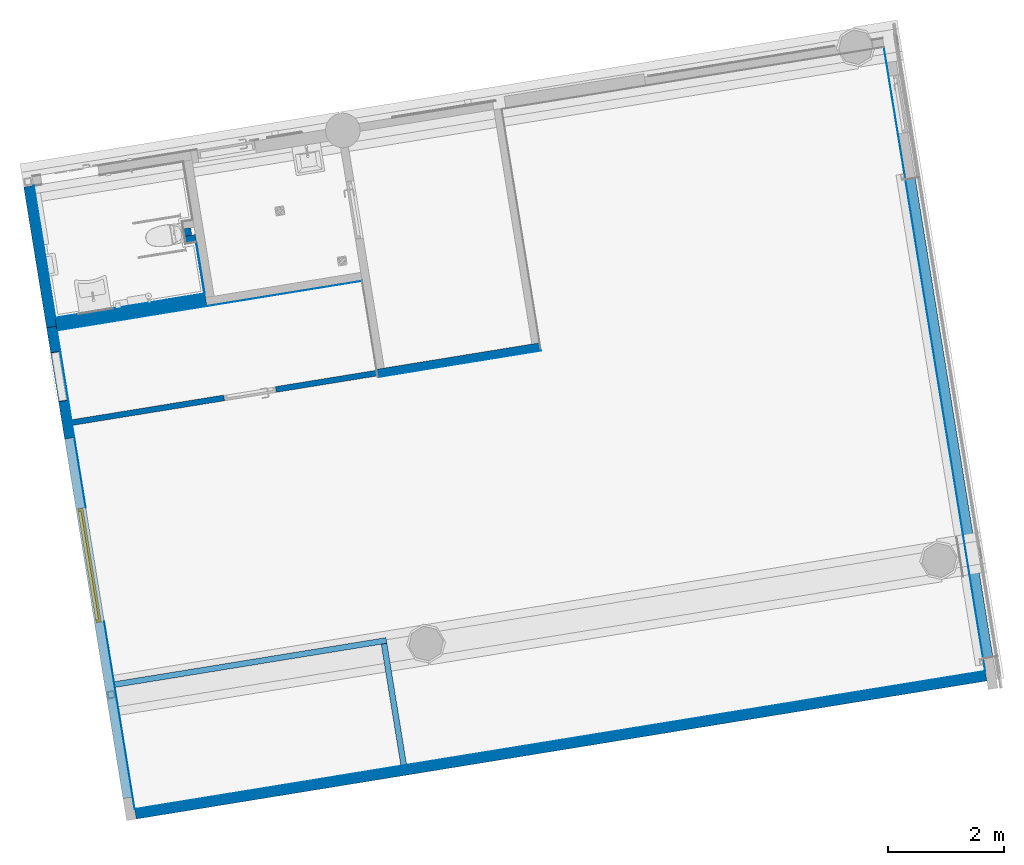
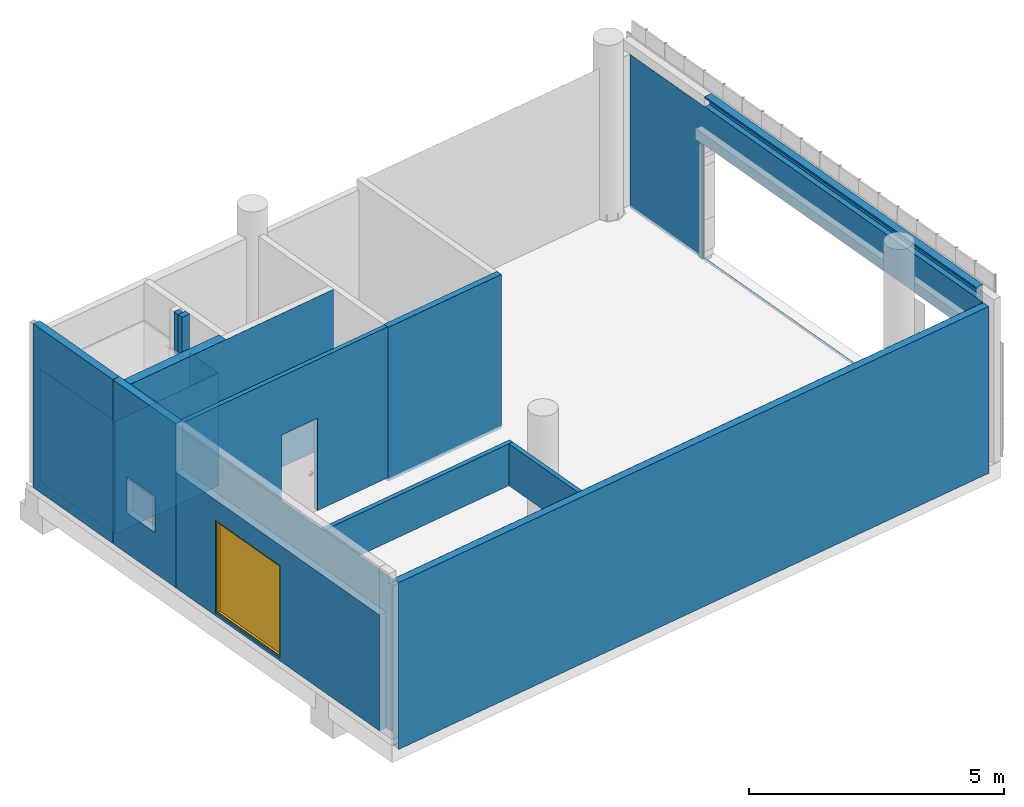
# One storey, part 15 of 38: 20 walls, 1 door, 6 openings.
"""IFC2X3 building model written with IfcOpenShell, lengths in millimetres."""

from ifc_helpers import new_model, entity, si_unit, converted_unit, derived_unit, direction, frame, frame_2d, origin, origin_with_axes, origin_2d_with_axis, place, context, subcontext, project, spatial, polyline, rectangle, outline, extrude, clip, bounded_halfspace, source, transform, mapped, material, layer, layer_set, layer_usage, type_object, element, fill, save


model = new_model("IFC2X3")

# Units and contexts
model_context = context("Model", 3, precision=0.01, world=origin(), true_north=direction((6.12323399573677e-17, 1.0)))
plan_context = context("Plan", 3, precision=1e-05, world=origin_with_axes())
body_context = subcontext(model_context, "Body", "Model", "MODEL_VIEW")
ifc_project = project(units=[converted_unit("PLANEANGLEUNIT", "DEGREE", entity("IfcPositiveLengthMeasure", 0.0174532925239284), si_unit("PLANEANGLEUNIT", "RADIAN"), dimensions=[0, 0, 0, 0, 0, 0, 0]), si_unit("AREAUNIT", "SQUARE_METRE"), si_unit("LENGTHUNIT", "METRE", prefix="MILLI"), si_unit("MASSUNIT", "GRAM", prefix="KILO"), si_unit("POWERUNIT", "WATT"), si_unit("PRESSUREUNIT", "PASCAL", prefix="KILO"), si_unit("FORCEUNIT", "NEWTON", prefix="KILO"), si_unit("ELECTRICVOLTAGEUNIT", "VOLT"), si_unit("ELECTRICCURRENTUNIT", "AMPERE"), si_unit("THERMODYNAMICTEMPERATUREUNIT", "DEGREE_CELSIUS"), si_unit("TIMEUNIT", "SECOND"), si_unit("VOLUMEUNIT", "CUBIC_METRE"), derived_unit("LINEARVELOCITYUNIT", [(si_unit("LENGTHUNIT", "METRE"), 1), (si_unit("TIMEUNIT", "SECOND"), -1)]), derived_unit("VOLUMETRICFLOWRATEUNIT", [(si_unit("VOLUMEUNIT", "CUBIC_METRE"), 1), (si_unit("TIMEUNIT", "SECOND"), -1)]), derived_unit("THERMALTRANSMITTANCEUNIT", [(si_unit("POWERUNIT", "WATT"), 1), (si_unit("THERMODYNAMICTEMPERATUREUNIT", "KELVIN"), -1), (si_unit("AREAUNIT", "SQUARE_METRE"), -1)]), derived_unit("SOUNDPRESSUREUNIT", [(si_unit("PRESSUREUNIT", "PASCAL"), 1)])], contexts=[model_context, plan_context])

# Site, building, storey
site_placement = place(None, frame((-0.00071070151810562, 0.00438415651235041, 0.0), z_axis=(0.0, 0.0, 1.0), x_axis=(-0.160236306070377, 0.987078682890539, 0.0)))
site = spatial("IfcSite", under=ifc_project, at=site_placement, Name="Default", CompositionType="ELEMENT")
building_placement = place(site_placement, origin_with_axes())
building = spatial("IfcBuilding", under=site, at=building_placement, Name="TOO", CompositionType="ELEMENT")
storey_placement = place(building_placement, frame((0.0, 0.0, 50999.9999999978), z_axis=(0.0, 0.0, 1.0), x_axis=(1.0, 0.0, 0.0)))
storey = spatial("IfcBuildingStorey", under=building, at=storey_placement, Name="Nivå D-H01", CompositionType="ELEMENT", Elevation=50999.9999999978)

# Walls
ifc_material_1 = material(Name="A240 - Gipsplate")
ifc_layer_1 = layer(ifc_material_1, 12.5)
ifc_layer_2 = layer(ifc_material_1, 12.5)
ifc_layer_3 = layer(ifc_material_1, 12.5)
ifc_material_2 = material(Name="A240 - Stenderverk - Usiolert")
ifc_layer_4 = layer(ifc_material_2, 100.0)
ifc_layer_set_1 = layer_set([ifc_layer_1, ifc_layer_2, ifc_layer_3, ifc_layer_4], Name="Basic Wall:A242 - GGG100/0")
ifc_layer_usage_1 = layer_usage(ifc_layer_set_1, "AXIS2", "NEGATIVE", 68.75)
wall_type_1 = type_object("IfcWallType", Name="Basic Wall:A242 - GGG100/0", PredefinedType="STANDARD", material=ifc_layer_set_1)
wall_1_placement = place(storey_placement, frame((775633.869644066, -597277.480498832, -70.0), z_axis=(0.0, 0.0, 1.0), x_axis=(0.0, 1.0, 0.0)))
element("IfcWallStandardCase", 1, at=wall_1_placement, inside=storey, type_object=wall_type_1, material=ifc_layer_usage_1, Name="Basic Wall:A242 - GGG100/0", ObjectType="Basic Wall:A242 - GGG100/0", context=body_context, shape_type="SweptSolid", body=[
    extrude(rectangle(XDim=2862.49999999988, YDim=137.500000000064, at=frame_2d((1431.24999999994, 2.60769184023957e-12), x_axis=(-1.0, 0.0))), origin(), (0.0, 0.0, 1.0), 3680.00000000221),
])
ifc_layer_5 = layer(ifc_material_1, 12.5)
ifc_layer_6 = layer(ifc_material_1, 12.5)
ifc_material_3 = material(Name="A200 - Isolasjon - Rock Wool")
ifc_layer_7 = layer(ifc_material_3, 160.0)
ifc_layer_8 = layer(ifc_material_1, 12.5)
ifc_layer_9 = layer(ifc_material_1, 12.5)
ifc_layer_set_2 = layer_set([ifc_layer_5, ifc_layer_6, ifc_layer_7, ifc_layer_8, ifc_layer_9], Name="Basic Wall:A242 - GG160/100GG")
ifc_layer_usage_2 = layer_usage(ifc_layer_set_2, "AXIS2", "NEGATIVE", 105.0)
wall_type_2 = type_object("IfcWallType", Name="Basic Wall:A242 - GG160/100GG", PredefinedType="STANDARD", material=ifc_layer_set_2)
wall_2_placement = place(storey_placement, frame((777357.619644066, -591692.481738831, -70.0), z_axis=(0.0, 0.0, 1.0), x_axis=(0.0, 1.0, 0.0)))
element("IfcWallStandardCase", 2, at=wall_2_placement, inside=storey, type_object=wall_type_2, material=ifc_layer_usage_2, Name="Basic Wall:A242 - GG160/100GG", ObjectType="Basic Wall:A242 - GG160/100GG", context=body_context, shape_type="SweptSolid", body=[
    extrude(rectangle(XDim=2630.00000000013, YDim=209.999999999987, at=frame_2d((1315.00000000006, 4.41247038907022e-12), x_axis=(-1.0, 0.0))), origin(), (0.0, 0.0, 1.0), 3680.00000000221),
])

# Wall, opening
ifc_layer_10 = layer(ifc_material_1, 12.5)
ifc_layer_11 = layer(ifc_material_1, 12.5)
ifc_layer_12 = layer(ifc_material_3, 120.0)
ifc_layer_13 = layer(ifc_material_1, 12.5)
ifc_layer_14 = layer(ifc_material_1, 12.5)
ifc_layer_set_3 = layer_set([ifc_layer_10, ifc_layer_11, ifc_layer_12, ifc_layer_13, ifc_layer_14], Name="Basic Wall:A242 - GG120/100GG")
ifc_layer_usage_3 = layer_usage(ifc_layer_set_3, "AXIS2", "NEGATIVE", 85.0)
wall_type_3 = type_object("IfcWallType", Name="Basic Wall:A242 - GG120/100GG", PredefinedType="STANDARD", material=ifc_layer_set_3)
wall_3_placement = place(storey_placement, frame((775377.619644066, -588977.48173883, -70.0), z_axis=(0.0, 0.0, 1.0), x_axis=(1.0, 0.0, 0.0)))
wall_3 = element("IfcWallStandardCase", 3, at=wall_3_placement, inside=storey, type_object=wall_type_3, material=ifc_layer_usage_3, Name="Basic Wall:A242 - GG120/100GG", ObjectType="Basic Wall:A242 - GG120/100GG", context=body_context, shape_type="SweptSolid", body=[
    extrude(rectangle(XDim=1950.00000000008, YDim=169.999999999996, at=frame_2d((975.000000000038, 0.0), x_axis=(-1.0, 0.0))), origin(), (0.0, 0.0, 1.0), 3920.00000000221),
])
opening_1_placement = place(wall_3_placement, origin_with_axes())
element("IfcOpeningElement", 4, at=opening_1_placement, cuts=wall_3, Name="Basic Wall:A242 - GG120/100GG", ObjectType="Recess", context=body_context, shape_type="SweptSolid", body=[
    extrude(rectangle(XDim=860.000000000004, YDim=860.000000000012, at=frame_2d((-8.66862137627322e-12, 0.0), x_axis=(1.0, 0.0))), frame((1081.0, -65.0, 1400.0), z_axis=(0.0, 1.0, 0.0), x_axis=(0.0, 0.0, -1.0)), (0.0, 0.0, 1.0), 150.000000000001),
])

# Walls
ifc_layer_usage_4 = layer_usage(ifc_layer_set_3, "AXIS2", "POSITIVE", -85.0)
wall_4_placement = place(storey_placement, frame((769067.619644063, -604067.480498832, 2700.0), z_axis=(0.0, 0.0, 1.0), x_axis=(1.0, 0.0, 0.0)))
element("IfcWallStandardCase", 5, at=wall_4_placement, inside=storey, type_object=wall_type_3, material=ifc_layer_usage_4, Name="Basic Wall:A242 - GG120/100GG", ObjectType="Basic Wall:A242 - GG120/100GG", context=body_context, shape_type="Clipping", body=[
    clip(extrude(rectangle(XDim=8420.00000000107, YDim=169.999999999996, at=frame_2d((4210.00000000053, 0.0), x_axis=(-1.0, 0.0))), origin(), (0.0, 0.0, 1.0), 1150.0000000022), bounded_halfspace(frame((8420.0, -35.0, 910.0), z_axis=(0.0, -1.0, 0.0), x_axis=(0.0, 0.0, 1.0)), True, frame((8420.0, -35.0, 910.0), z_axis=(0.0, -1.0, 0.0), x_axis=(0.0, 0.0, 1.0)), polyline([(0.0, 0.0), (200.0, 0.0), (200.0, 8420.0), (0.0, 8420.0), (0.0, 0.0)]))),
])
ifc_layer_usage_5 = layer_usage(ifc_layer_set_3, "AXIS2", "NEGATIVE", 85.0)
wall_5_placement = place(storey_placement, frame((777327.619644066, -588977.48173883, -70.0), z_axis=(0.0, 0.0, 1.0), x_axis=(1.0, 0.0, 0.0)))
element("IfcWallStandardCase", 6, at=wall_5_placement, inside=storey, type_object=wall_type_3, material=ifc_layer_usage_5, Name="Basic Wall:A242 - GG120/100GG", ObjectType="Basic Wall:A242 - GG120/100GG", context=body_context, shape_type="SweptSolid", body=[
    extrude(rectangle(XDim=2465.00000000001, YDim=169.999999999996, at=frame_2d((1232.50000000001, 0.0), x_axis=(-1.0, 0.0))), origin(), (0.0, 0.0, 1.0), 3920.00000000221),
])
ifc_layer_usage_6 = layer_usage(ifc_layer_set_3, "AXIS2", "NEGATIVE", 85.0)
wall_6_placement = place(storey_placement, frame((768767.619644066, -589062.48173883, -380.067860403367), z_axis=(0.0, 0.0, 1.0), x_axis=(0.0, -1.0, 0.0)))
element("IfcWallStandardCase", 7, at=wall_6_placement, inside=storey, type_object=wall_type_3, material=ifc_layer_usage_6, Name="Basic Wall:A242 - GG120/100GG", ObjectType="Basic Wall:A242 - GG120/100GG", context=body_context, shape_type="SweptSolid", body=[
    extrude(rectangle(XDim=14919.9987600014, YDim=170.000000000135, at=frame_2d((7459.9993800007, 0.0), x_axis=(-1.0, 0.0))), origin(), (0.0, 0.0, 1.0), 3990.06786040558),
])

# Wall, opening, door
ifc_layer_usage_7 = layer_usage(ifc_layer_set_3, "AXIS2", "NEGATIVE", 85.0)
wall_7_placement = place(storey_placement, frame((769067.619644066, -588977.48173883, -70.0), z_axis=(0.0, 0.0, 1.0), x_axis=(1.0, 0.0, 0.0)))
wall_7 = element("IfcWallStandardCase", 8, at=wall_7_placement, inside=storey, type_object=wall_type_3, material=ifc_layer_usage_7, Name="Basic Wall:A242 - GG120/100GG", ObjectType="Basic Wall:A242 - GG120/100GG", context=body_context, shape_type="SweptSolid", body=[
    extrude(rectangle(XDim=6310.00000000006, YDim=169.999999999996, at=frame_2d((3155.00000000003, 0.0), x_axis=(-1.0, 0.0))), origin(), (0.0, 0.0, 1.0), 2769.99999999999),
])
opening_2_placement = place(wall_7_placement, frame((5085.40884400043, 85.0000000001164, 70.0), z_axis=(0.0, 0.0, 1.0), x_axis=(1.0, 0.0, 0.0)))
opening_2 = element("IfcOpeningElement", 9, at=opening_2_placement, cuts=wall_7, Name="A200 - Slagdør - Tofløyet:A244 - DI_LSO - 1990 x 2190 mm:1", ObjectType="Opening", context=body_context, shape_type="SweptSolid", body=[
    extrude(rectangle(XDim=2209.99999999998, YDim=2010.0, at=frame_2d((1104.99999999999, 1005.0), x_axis=(1.0, 0.0))), frame((0.0, 0.0, 0.0), z_axis=(0.0, -1.0, 0.0), x_axis=(0.0, 0.0, 1.0)), (0.0, 0.0, 1.0), 170.0),
])
ifc_material_4 = material(Name="_NSW Stål")
door_style = type_object("IfcDoorStyle", Name="A200 - Slagdør - Tofløyet:A244 - DI_LSO - 1990 x 2190 mm", ConstructionType="NOTDEFINED", OperationType="DOUBLE_DOOR_SINGLE_SWING", ParameterTakesPrecedence=False, Sizeable=False, material=ifc_material_4)
shared_shape = source(origin(), body_context, "Body", "SweptSolid", [
    extrude(rectangle(XDim=953.0, YDim=40.0000000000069, at=frame_2d((-2.8421709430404e-14, 0.0), x_axis=(1.0, 0.0))), frame((1481.50000000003, 100.0, 30.0)), (0.0, 0.0, 1.0), 2128.00000000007),
    extrude(rectangle(XDim=952.999999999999, YDim=40.0, at=frame_2d((2.8421709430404e-14, 0.0), x_axis=(1.0, 0.0))), frame((528.500000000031, 100.0, 30.0)), (0.0, 0.0, 1.0), 2128.00000000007),
    extrude(rectangle(XDim=1906.0, YDim=92.0, at=origin_2d_with_axis()), frame((1005.0, 74.0, 10.0)), (0.0, 0.0, 1.0), 19.9999999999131),
    extrude(outline(polyline([(-1084.49999999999, -953.0), (-1084.49999999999, -995.0), (1105.49999999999, -995.0), (1105.49999999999, 995.0), (-1084.49999999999, 995.0), (-1084.49999999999, 953.0), (1063.49999999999, 953.0), (1063.49999999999, -953.0), (-1084.49999999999, -953.0)])), frame((1005.0, 28.0, 1094.49999999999), z_axis=(0.0, -1.0, 0.0), x_axis=(0.0, 0.0, 1.0)), (0.0, 0.0, -1.0), 92.0),
])
door_placement = place(opening_2_placement, frame((0.0, 0.0, 0.0), z_axis=(0.0, 0.0, 1.0), x_axis=(-1.0, 0.0, 0.0)))
door = element("IfcDoor", 10, at=door_placement, inside=storey, type_object=door_style, material=ifc_material_4, Name="A200 - Slagdør - Tofløyet:A244 - DI_LSO - 1990 x 2190 mm", ObjectType="A200 - Slagdør - Tofløyet:A244 - DI_LSO - 1990 x 2190 mm", OverallHeight=2209.99999999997, OverallWidth=2009.99999999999, context=body_context, shape_type="MappedRepresentation", body=[
    mapped(shared_shape, transform((0.0, 0.0, 0.0), scale=1.0)),
])
fill(opening_2, door)

# Walls
ifc_layer_15 = layer(ifc_material_1, 12.5)
ifc_layer_16 = layer(ifc_material_1, 12.5)
ifc_layer_17 = layer(ifc_material_2, 100.0)
ifc_layer_set_4 = layer_set([ifc_layer_15, ifc_layer_16, ifc_layer_17], Name="Basic Wall:A242 - GG100/0")
ifc_layer_usage_8 = layer_usage(ifc_layer_set_4, "AXIS2", "NEGATIVE", 62.5)
wall_type_4 = type_object("IfcWallType", Name="Basic Wall:A242 - GG100/0", PredefinedType="STANDARD", material=ifc_layer_set_4)
wall_8_placement = place(storey_placement, frame((778507.619644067, -591567.928723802, -70.0), z_axis=(0.0, 0.0, 1.0), x_axis=(1.0, 0.0, 0.0)))
element("IfcWallStandardCase", 11, at=wall_8_placement, inside=storey, type_object=wall_type_4, material=ifc_layer_usage_8, Name="Basic Wall:A242 - GG100/0", ObjectType="Basic Wall:A242 - GG100/0", context=body_context, shape_type="SweptSolid", body=[
    extrude(rectangle(XDim=129.999999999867, YDim=125.000000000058, at=frame_2d((64.9999999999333, 0.0), x_axis=(-1.0, 0.0))), origin(), (0.0, 0.0, 1.0), 3680.00000000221),
])
ifc_layer_usage_9 = layer_usage(ifc_layer_set_4, "AXIS2", "NEGATIVE", 62.5)
wall_9_placement = place(storey_placement, frame((778445.119644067, -591692.481738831, -70.0), z_axis=(0.0, 0.0, 1.0), x_axis=(0.0, 1.0, 0.0)))
element("IfcWallStandardCase", 12, at=wall_9_placement, inside=storey, type_object=wall_type_4, material=ifc_layer_usage_9, Name="Basic Wall:A242 - GG100/0", ObjectType="Basic Wall:A242 - GG100/0", context=body_context, shape_type="SweptSolid", body=[
    extrude(rectangle(XDim=187.053015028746, YDim=125.000000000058, at=frame_2d((93.5265075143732, 0.0), x_axis=(-1.0, 0.0))), origin(), (0.0, 0.0, 1.0), 3680.00000000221),
])
ifc_material_5 = material(Name="246-F02")
ifc_layer_18 = layer(ifc_material_5, 10.0)
ifc_layer_set_5 = layer_set([ifc_layer_18], Name="Basic Wall:A246 - F02 - 900 x 300")
ifc_layer_usage_10 = layer_usage(ifc_layer_set_5, "AXIS2", "NEGATIVE", 5.0)
wall_type_5 = type_object("IfcWallType", Name="Basic Wall:A246 - F02 - 900 x 300", PredefinedType="STANDARD", material=ifc_layer_set_5)
wall_10_placement = place(storey_placement, frame((777462.619644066, -591687.48173883, 0.0), z_axis=(0.0, 0.0, 1.0), x_axis=(1.0, 0.0, 0.0)))
element("IfcWallStandardCase", 13, at=wall_10_placement, inside=storey, type_object=wall_type_5, material=ifc_layer_usage_10, Name="Basic Wall:A246 - F02 - 900 x 300", ObjectType="Basic Wall:A246 - F02 - 900 x 300", context=body_context, shape_type="SweptSolid", body=[
    extrude(rectangle(XDim=920.000000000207, YDim=10.0000000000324, at=frame_2d((460.000000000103, 0.0), x_axis=(-1.0, 0.0))), origin(), (0.0, 0.0, 1.0), 2700.00000000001),
])
ifc_layer_usage_11 = layer_usage(ifc_layer_set_5, "AXIS2", "NEGATIVE", 5.0)
wall_11_placement = place(storey_placement, frame((777467.619644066, -589062.481738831, 0.0), z_axis=(0.0, 0.0, 1.0), x_axis=(0.0, -1.0, 0.0)))
element("IfcWallStandardCase", 14, at=wall_11_placement, inside=storey, type_object=wall_type_5, material=ifc_layer_usage_11, Name="Basic Wall:A246 - F02 - 900 x 300", ObjectType="Basic Wall:A246 - F02 - 900 x 300", context=body_context, shape_type="SweptSolid", body=[
    extrude(rectangle(XDim=2619.99999999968, YDim=9.99999999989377, at=frame_2d((1309.99999999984, 0.0), x_axis=(-1.0, 0.0))), origin(), (0.0, 0.0, 1.0), 2700.00000000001),
])
ifc_layer_usage_12 = layer_usage(ifc_layer_set_5, "AXIS2", "NEGATIVE", 5.0)
wall_12_placement = place(storey_placement, frame((779792.619644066, -589067.481738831, 0.0), z_axis=(0.0, 0.0, 1.0), x_axis=(-1.0, 0.0, 0.0)))
element("IfcWallStandardCase", 15, at=wall_12_placement, inside=storey, type_object=wall_type_5, material=ifc_layer_usage_12, Name="Basic Wall:A246 - F02 - 900 x 300", ObjectType="Basic Wall:A246 - F02 - 900 x 300", context=body_context, shape_type="SweptSolid", body=[
    extrude(rectangle(XDim=2320.00000000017, YDim=10.0000000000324, at=frame_2d((1160.00000000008, 0.0), x_axis=(-1.0, 0.0))), origin(), (0.0, 0.0, 1.0), 2700.00000000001),
])
ifc_material_6 = material(Name="A246 - ML01U _Maling kommers (302)")
ifc_layer_19 = layer(ifc_material_6, 2.0)
ifc_layer_set_6 = layer_set([ifc_layer_19], Name="Basic Wall:A246 - Maling KA")
ifc_layer_usage_13 = layer_usage(ifc_layer_set_6, "AXIS2", "NEGATIVE", 1.0)
wall_type_6 = type_object("IfcWallType", Name="Basic Wall:A246 - Maling KA", PredefinedType="STANDARD", material=ifc_layer_set_6)
wall_13_placement = place(storey_placement, frame((768853.619644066, -589062.48173883, -70.0), z_axis=(0.0, 0.0, 1.0), x_axis=(0.0, -1.0, 0.0)))
element("IfcWallStandardCase", 16, at=wall_13_placement, inside=storey, type_object=wall_type_6, material=ifc_layer_usage_13, Name="Basic Wall:A246 - Maling KA", ObjectType="Basic Wall:A246 - Maling KA", context=body_context, shape_type="SweptSolid", body=[
    extrude(rectangle(XDim=14919.9987600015, YDim=2.0000000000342, at=frame_2d((7459.99938000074, 0.0), x_axis=(-1.0, 0.0))), origin(), (0.0, 0.0, 1.0), 3680.00000000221),
])
ifc_layer_usage_14 = layer_usage(ifc_layer_set_6, "AXIS2", "NEGATIVE", 1.0)
wall_14_placement = place(storey_placement, frame((775564.119644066, -597279.480498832, -70.0), z_axis=(0.0, 0.0, 1.0), x_axis=(0.0, 1.0, 0.0)))
element("IfcWallStandardCase", 17, at=wall_14_placement, inside=storey, type_object=wall_type_6, material=ifc_layer_usage_14, Name="Basic Wall:A246 - Maling KA", ObjectType="Basic Wall:A246 - Maling KA", context=body_context, shape_type="SweptSolid", body=[
    extrude(rectangle(XDim=2866.49999999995, YDim=2.0000000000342, at=frame_2d((1433.24999999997, 2.61390908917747e-12), x_axis=(-1.0, 0.0))), origin(), (0.0, 0.0, 1.0), 3680.00000000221),
])
ifc_layer_usage_15 = layer_usage(ifc_layer_set_6, "AXIS2", "NEGATIVE", 1.0)
wall_15_placement = place(storey_placement, frame((777251.619644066, -594414.980498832, -70.0), z_axis=(0.0, 0.0, 1.0), x_axis=(0.0, 1.0, 0.0)))
element("IfcWallStandardCase", 18, at=wall_15_placement, inside=storey, type_object=wall_type_6, material=ifc_layer_usage_15, Name="Basic Wall:A246 - Maling KA", ObjectType="Basic Wall:A246 - Maling KA", context=body_context, shape_type="SweptSolid", body=[
    extrude(rectangle(XDim=5350.49876000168, YDim=2.0000000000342, at=frame_2d((2675.24938000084, 8.97149021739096e-12), x_axis=(-1.0, 0.0))), origin(), (0.0, 0.0, 1.0), 3680.00000000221),
])

# Wall, openings
ifc_layer_usage_16 = layer_usage(ifc_layer_set_6, "AXIS2", "NEGATIVE", 1.0)
wall_16_placement = place(storey_placement, frame((768854.619644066, -603981.480498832, -70.0), z_axis=(0.0, 0.0, 1.0), x_axis=(1.0, 0.0, 0.0)))
wall_16 = element("IfcWallStandardCase", 19, at=wall_16_placement, inside=storey, type_object=wall_type_6, material=ifc_layer_usage_16, Name="Basic Wall:A246 - Maling KA", ObjectType="Basic Wall:A246 - Maling KA", context=body_context, shape_type="SweptSolid", body=[
    extrude(rectangle(XDim=10946.0, YDim=2.0000000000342, at=frame_2d((5473.00000000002, 0.0), x_axis=(-1.0, 0.0))), origin(), (0.0, 0.0, 1.0), 3680.00000000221),
])
opening_3_placement = place(wall_16_placement, origin_with_axes())
element("IfcOpeningElement", 20, at=opening_3_placement, cuts=wall_16, Name="Basic Wall:A246 - Maling KA", ObjectType="Opening", context=body_context, shape_type="SweptSolid", body=[
    extrude(rectangle(XDim=13.3356533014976, YDim=49.9279786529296, at=frame_2d((-8.66284821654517e-12, 0.0), x_axis=(1.0, 0.0))), frame((6826.31715569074, -1.0, 2618.04816265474), z_axis=(0.0, 1.0, 0.0), x_axis=(0.0, 0.0, -1.0)), (0.0, 0.0, 1.0), 2.0000000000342),
])
opening_4_placement = place(wall_16_placement, origin_with_axes())
element("IfcOpeningElement", 21, at=opening_4_placement, cuts=wall_16, Name="Basic Wall:A246 - Maling KA", ObjectType="Opening", context=body_context, shape_type="SweptSolid", body=[
    extrude(rectangle(XDim=2700.0, YDim=8446.00000000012, at=frame_2d((4.32009983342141e-12, -6.9576344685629e-11), x_axis=(1.0, 0.0))), frame((4423.0, -1.0, 1420.0), z_axis=(0.0, 1.0, 0.0), x_axis=(0.0, 0.0, -1.0)), (0.0, 0.0, 1.0), 2.0000000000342),
])

# Wall, opening
ifc_layer_usage_17 = layer_usage(ifc_layer_set_6, "AXIS2", "NEGATIVE", 1.0)
wall_17_placement = place(storey_placement, frame((768854.619644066, -589063.48173883, -70.0), z_axis=(0.0, 0.0, 1.0), x_axis=(1.0, 0.0, 0.0)))
wall_17 = element("IfcWallStandardCase", 22, at=wall_17_placement, inside=storey, type_object=wall_type_6, material=ifc_layer_usage_17, Name="Basic Wall:A246 - Maling KA", ObjectType="Basic Wall:A246 - Maling KA", context=body_context, shape_type="SweptSolid", body=[
    extrude(rectangle(XDim=8398.00000000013, YDim=2.0000000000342, at=frame_2d((4199.00000000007, 0.0), x_axis=(-1.0, 0.0))), origin(), (0.0, 0.0, 1.0), 3680.00000000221),
])
opening_5_placement = place(wall_17_placement, origin_with_axes())
element("IfcOpeningElement", 23, at=opening_5_placement, cuts=wall_17, Name="Basic Wall:A246 - Maling KA", ObjectType="Opening", context=body_context, shape_type="SweptSolid", body=[
    extrude(rectangle(XDim=2269.99999999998, YDim=2000.00000000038, at=frame_2d((-1.3858425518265e-10, -4.32009983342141e-12), x_axis=(0.0, 1.0))), frame((4288.40884400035, 1.0, 1135.0), z_axis=(0.0, -1.0, 0.0), x_axis=(1.0, 0.0, 0.0)), (0.0, 0.0, 1.0), 2.0),
])

ifc_layer_20 = layer(ifc_material_1, 12.5)
ifc_layer_21 = layer(ifc_material_3, 75.0)
ifc_layer_22 = layer(ifc_material_1, 12.5)
ifc_layer_set_7 = layer_set([ifc_layer_20, ifc_layer_21, ifc_layer_22], Name="Basic Wall:A242 - G75/75G")
ifc_layer_usage_18 = layer_usage(ifc_layer_set_7, "AXIS2", "NEGATIVE", 50.0)
wall_type_7 = type_object("IfcWallType", Name="Basic Wall:A242 - G75/75G", PredefinedType="STANDARD", material=ifc_layer_set_7)
wall_18_placement = place(storey_placement, frame((775636.619644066, -594414.980498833, 0.0), z_axis=(0.0, 0.0, 1.0), x_axis=(0.0, 1.0, 0.0)))
wall_18 = element("IfcWallStandardCase", 24, at=wall_18_placement, inside=storey, type_object=wall_type_7, material=ifc_layer_usage_18, Name="Basic Wall:A242 - G75/75G", ObjectType="Basic Wall:A242 - G75/75G", context=body_context, shape_type="SweptSolid", body=[
    extrude(rectangle(XDim=5352.49876000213, YDim=100.000000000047, at=frame_2d((2676.24938000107, 0.0), x_axis=(1.0, 0.0))), origin(), (0.0, 0.0, 1.0), 3610.00000000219),
])
opening_6_placement = place(wall_18_placement, frame((1774.34787409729, -50.0000000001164, 0.0), z_axis=(0.0, 0.0, 1.0), x_axis=(1.0, 0.0, 0.0)))
element("IfcOpeningElement", 25, at=opening_6_placement, cuts=wall_18, Name="A200 - Slagdør - Enfløyet:A244 - DI_LSO - 0890 x 2190 mm:1", ObjectType="Opening", context=body_context, shape_type="SweptSolid", body=[
    extrude(rectangle(XDim=2209.99999999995, YDim=910.0, at=frame_2d((1104.99999999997, 455.0), x_axis=(1.0, 0.0))), frame((0.0, 0.0, 0.0), z_axis=(0.0, 1.0, 0.0), x_axis=(0.0, 0.0, 1.0)), (0.0, 0.0, 1.0), 100.0),
])

# Walls
ifc_layer_usage_19 = layer_usage(ifc_layer_set_7, "AXIS2", "NEGATIVE", 50.0)
wall_19_placement = place(storey_placement, frame((771040.619644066, -593832.48173883, 2610.0), z_axis=(0.0, 0.0, 1.0), x_axis=(0.0, 1.0, 0.0)))
element("IfcWallStandardCase", 26, at=wall_19_placement, inside=storey, type_object=wall_type_7, material=ifc_layer_usage_19, Name="Basic Wall:A242 - G75/75G", ObjectType="Basic Wall:A242 - G75/75G", context=body_context, shape_type="SweptSolid", body=[
    extrude(rectangle(XDim=4769.99999999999, YDim=100.000000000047, at=frame_2d((2384.99999999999, 0.0), x_axis=(-1.0, 0.0))), origin(), (0.0, 0.0, 1.0), 1000.0000000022),
])
ifc_layer_usage_20 = layer_usage(ifc_layer_set_7, "AXIS2", "NEGATIVE", 50.0)
wall_20_placement = place(storey_placement, frame((770990.619644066, -593782.48173883, 2610.0), z_axis=(0.0, 0.0, 1.0), x_axis=(-1.0, 0.0, 0.0)))
element("IfcWallStandardCase", 27, at=wall_20_placement, inside=storey, type_object=wall_type_7, material=ifc_layer_usage_20, Name="Basic Wall:A242 - G75/75G", ObjectType="Basic Wall:A242 - G75/75G", context=body_context, shape_type="SweptSolid", body=[
    extrude(rectangle(XDim=2135.99999999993, YDim=100.000000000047, at=frame_2d((1067.99999999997, 0.0), x_axis=(-1.0, 0.0))), origin(), (0.0, 0.0, 1.0), 1000.0000000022),
])

save(model, "model.ifc")
